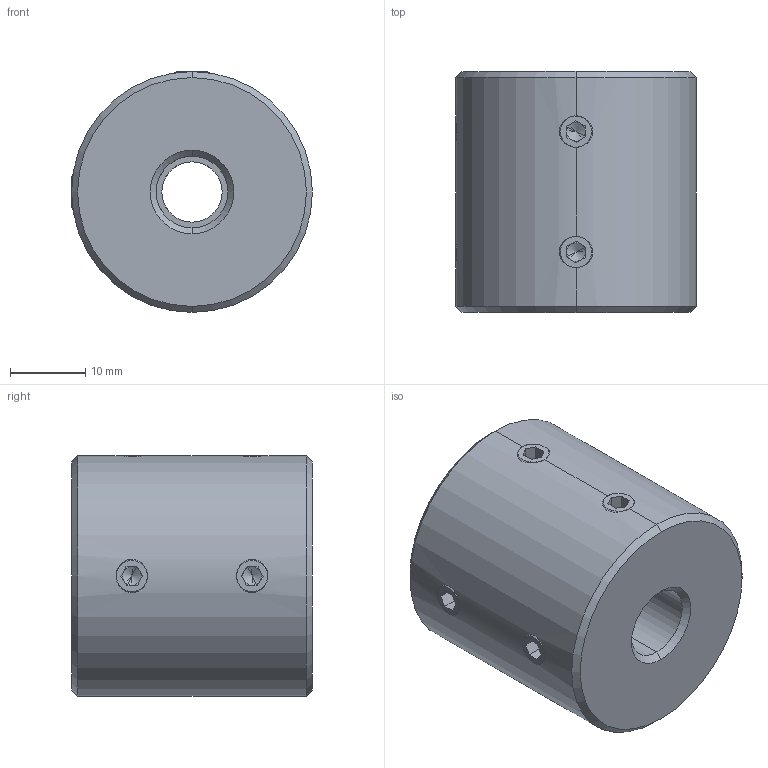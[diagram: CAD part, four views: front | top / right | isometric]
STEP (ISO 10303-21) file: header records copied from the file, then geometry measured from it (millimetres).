
FILE_DESCRIPTION (( 'STEP AP214' ), '1' );
FILE_NAME ('LL-D-D32L32-8-9.525½¨Ä£.STEP', '2022-07-22T11:24:07', ( '' ), ( '' ), 'SwSTEP 2.0', 'SolidWorks 2022', '' );
FILE_SCHEMA (( 'AUTOMOTIVE_DESIGN' ));
Length unit declared in the file: millimetre
Products named in the file (1): LL-D-D32L32-8-9.525膘耀
Bounding box: 32 x 32 x 32 mm (x, y, z)
Volume: 23452.7 mm3; surface area: 5788.9 mm2
Topology: 1 solids, 1 shells, 113 faces, 286 edges, 176 vertices
Faces by surface type: plane 59, cone 32, cylinder 22
Entity records: 3748 total; most frequent: CARTESIAN_POINT 1038, DIRECTION 558, ORIENTED_EDGE 556, EDGE_CURVE 278, AXIS2_PLACEMENT_3D 206, VERTEX_POINT 176, LINE 146, VECTOR 146
